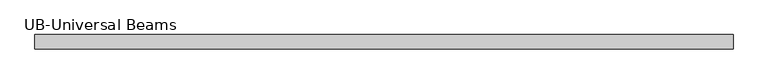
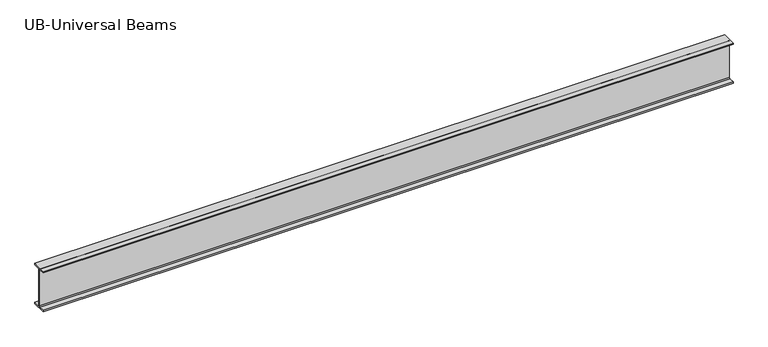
"""IFC4 building model written with IfcOpenShell, lengths in millimetres: beam geometry."""

from ifc_helpers import new_model, si_unit, point, frame, frame_2d, origin, place, context, project, spatial, polyline, circle_curve, trimmed, segment, composite_curve, outline, extrude, source, transform, mapped, element, save


def ub_universal_beams_37de3949(model_context):
    return source(origin(), model_context, "Body", "SweptSolid", [
        extrude(outline(composite_curve([segment(polyline([(76.9, -214.0), (76.9, -229.0), (-76.9, -229.0), (-76.9, -214.0), (-14.7, -214.0)]), True, "CONTINUOUS"), segment(trimmed(circle_curve(frame_2d((-14.7, -203.8)), 10.2), [point((-14.7, -214.0))], [point((-4.5, -203.8))], True, "CARTESIAN"), True, "CONTINUOUS"), segment(polyline([(-4.5, -203.8), (-4.5, 203.8)]), True, "CONTINUOUS"), segment(trimmed(circle_curve(frame_2d((-14.7, 203.8)), 10.2), [point((-4.5, 203.8))], [point((-14.7, 214.0))], True, "CARTESIAN"), True, "CONTINUOUS"), segment(polyline([(-14.7, 214.0), (-76.9, 214.0), (-76.9, 229.0), (76.9, 229.0), (76.9, 214.0), (14.7, 214.0)]), True, "CONTINUOUS"), segment(trimmed(circle_curve(frame_2d((14.7, 203.8)), 10.2), [point((14.7, 214.0))], [point((4.5, 203.8))], True, "CARTESIAN"), True, "CONTINUOUS"), segment(polyline([(4.5, 203.8), (4.5, -203.8)]), True, "CONTINUOUS"), segment(trimmed(circle_curve(frame_2d((14.7, -203.8)), 10.2), [point((4.5, -203.8))], [point((14.7, -214.0))], True, "CARTESIAN"), True, "CONTINUOUS"), segment(polyline([(14.7, -214.0), (76.9, -214.0)]), True, "CONTINUOUS")], self_intersect=False)), frame((-3724.8, 0.0, 0.0), z_axis=(1.0, 0.0, 0.0), x_axis=(0.0, 1.0, 0.0)), (0.0, 0.0, 1.0), 7446.4),
    ])


if __name__ == "__main__":
    model = new_model("IFC4")
    model_context = context("Model", 3, world=origin())
    ifc_project = project(units=[si_unit("LENGTHUNIT", "METRE", prefix="MILLI")], contexts=[model_context])
    site = spatial("IfcSite", under=ifc_project)
    building = spatial("IfcBuilding", under=site)
    placement = place(None, origin())
    ub_universal_beams_shape = ub_universal_beams_37de3949(model_context)
    element("IfcBeam", 1, ObjectType="UB-Universal Beams : UB 18\" x 6\" x 2 1/2\"", at=placement, inside=building, context=model_context, shape_type="MappedRepresentation", body=[
        mapped(ub_universal_beams_shape, transform((0.0, 0.0, 0.0), x_axis=(1.0, 0.0, 0.0), y_axis=(0.0, 1.0, 0.0), z_axis=(0.0, 0.0, 1.0))),
    ])
    save(model, "model.ifc")
